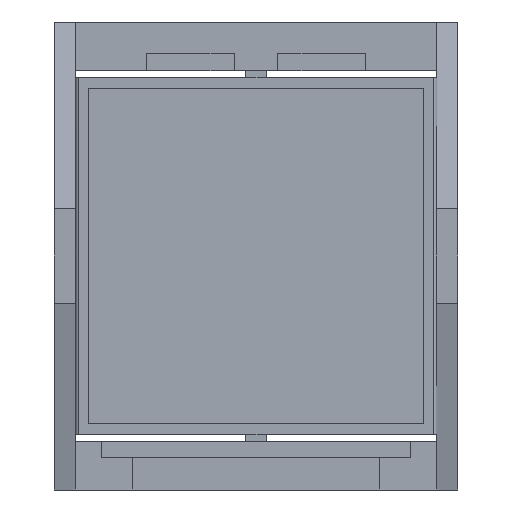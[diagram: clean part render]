
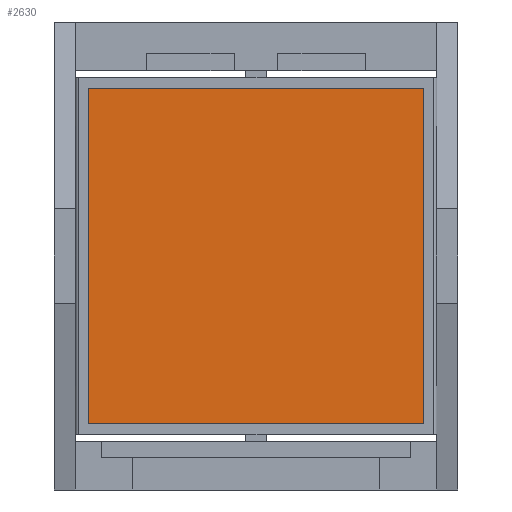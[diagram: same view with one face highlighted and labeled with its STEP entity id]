
A CAD part, front view. The second image highlights one B-rep face of the part: STEP entity #2630.
In plain terms, the highlighted planar face has unit normal (0, -1, 0).
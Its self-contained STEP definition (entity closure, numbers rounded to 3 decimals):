
#186 = ORIENTED_EDGE ( 'NONE', *, *, #4577, .F. ) ;
#353 = FACE_OUTER_BOUND ( 'NONE', #4144, .T. ) ;
#488 = PLANE ( 'NONE',  #3845 ) ;
#511 = CARTESIAN_POINT ( 'NONE',  ( 15.228, -3.744, -10.991 ) ) ;
#704 = VERTEX_POINT ( 'NONE', #2480 ) ;
#723 = LINE ( 'NONE', #6889, #5630 ) ;
#819 = VERTEX_POINT ( 'NONE', #5676 ) ;
#1011 = VECTOR ( 'NONE', #1418, 1000. ) ;
#1098 = VECTOR ( 'NONE', #3769, 1000. ) ;
#1391 = CARTESIAN_POINT ( 'NONE',  ( 15.228, -3.744, -10.991 ) ) ;
#1418 = DIRECTION ( 'NONE',  ( 0., 0., -1. ) ) ;
#1645 = EDGE_CURVE ( 'NONE', #819, #3614, #4689, .T. ) ;
#2234 = EDGE_CURVE ( 'NONE', #704, #6585, #3088, .T. ) ;
#2480 = CARTESIAN_POINT ( 'NONE',  ( 15.228, -3.744, 12.009 ) ) ;
#2544 = EDGE_CURVE ( 'NONE', #3614, #704, #5975, .T. ) ;
#2592 = VECTOR ( 'NONE', #3962, 1000. ) ;
#2630 = ADVANCED_FACE ( 'NONE', ( #353 ), #488, .F. ) ;
#2654 = CARTESIAN_POINT ( 'NONE',  ( -7.772, -3.744, 12.009 ) ) ;
#2744 = DIRECTION ( 'NONE',  ( 0., 0., 1. ) ) ;
#2821 = DIRECTION ( 'NONE',  ( 0., 1., 0. ) ) ;
#3015 = DIRECTION ( 'NONE',  ( -1., 0., 0. ) ) ;
#3088 = LINE ( 'NONE', #1391, #1011 ) ;
#3188 = ORIENTED_EDGE ( 'NONE', *, *, #2234, .F. ) ;
#3273 = CARTESIAN_POINT ( 'NONE',  ( -7.772, -3.744, 12.009 ) ) ;
#3563 = ORIENTED_EDGE ( 'NONE', *, *, #1645, .F. ) ;
#3614 = VERTEX_POINT ( 'NONE', #6640 ) ;
#3664 = ORIENTED_EDGE ( 'NONE', *, *, #2544, .F. ) ;
#3769 = DIRECTION ( 'NONE',  ( 1., 0., 0. ) ) ;
#3845 = AXIS2_PLACEMENT_3D ( 'NONE', #3273, #2821, #2744 ) ;
#3962 = DIRECTION ( 'NONE',  ( 0., 0., 1. ) ) ;
#4144 = EDGE_LOOP ( 'NONE', ( #3563, #186, #3188, #3664 ) ) ;
#4577 = EDGE_CURVE ( 'NONE', #6585, #819, #723, .T. ) ;
#4606 = CARTESIAN_POINT ( 'NONE',  ( -7.772, -3.744, -10.991 ) ) ;
#4689 = LINE ( 'NONE', #4606, #2592 ) ;
#5630 = VECTOR ( 'NONE', #3015, 1000. ) ;
#5676 = CARTESIAN_POINT ( 'NONE',  ( -7.772, -3.744, -10.991 ) ) ;
#5975 = LINE ( 'NONE', #2654, #1098 ) ;
#6585 = VERTEX_POINT ( 'NONE', #511 ) ;
#6640 = CARTESIAN_POINT ( 'NONE',  ( -7.772, -3.744, 12.009 ) ) ;
#6889 = CARTESIAN_POINT ( 'NONE',  ( -7.772, -3.744, -10.991 ) ) ;
